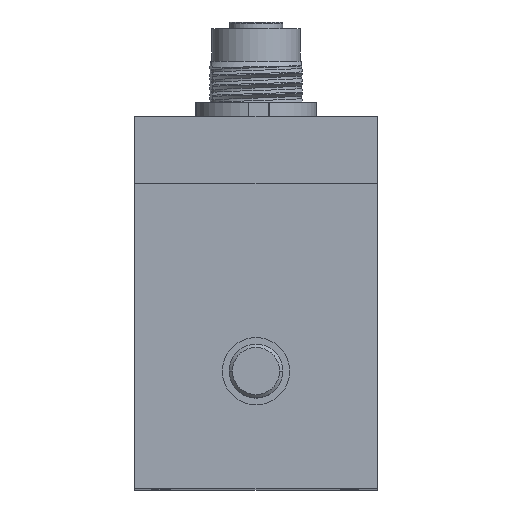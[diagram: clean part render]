
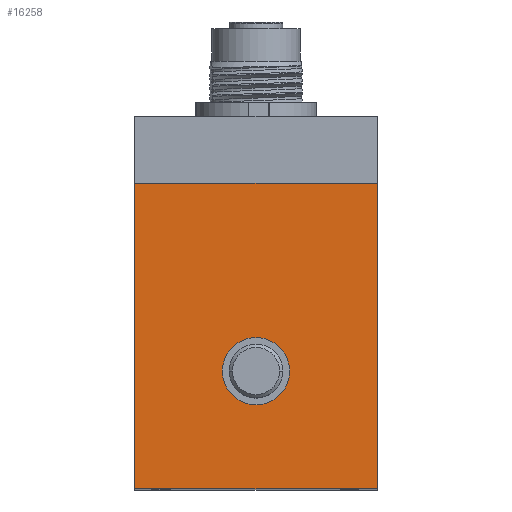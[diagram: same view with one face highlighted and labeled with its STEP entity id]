
A CAD part, top view. The second image highlights one B-rep face of the part: STEP entity #16258.
In plain terms, the highlighted planar face has unit normal (0, 0, 1).
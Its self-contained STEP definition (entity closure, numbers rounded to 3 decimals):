
#138 = AXIS2_PLACEMENT_3D ( 'NONE', #15660, #10300, #12169 ) ;
#1277 = FACE_OUTER_BOUND ( 'NONE', #8064, .T. ) ;
#1362 = CARTESIAN_POINT ( 'NONE',  ( -18., 22.7, 0. ) ) ;
#2106 = EDGE_CURVE ( 'NONE', #13286, #20883, #16691, .T. ) ;
#3254 = ORIENTED_EDGE ( 'NONE', *, *, #3777, .T. ) ;
#3566 = VECTOR ( 'NONE', #8073, 1000. ) ;
#3777 = EDGE_CURVE ( 'NONE', #12118, #6778, #15864, .T. ) ;
#4077 = DIRECTION ( 'NONE',  ( 0., -1., 0. ) ) ;
#4521 = DIRECTION ( 'NONE',  ( 1., 0., 0. ) ) ;
#4768 = DIRECTION ( 'NONE',  ( -1., 0., 0. ) ) ;
#4791 = CARTESIAN_POINT ( 'NONE',  ( 18., -22.7, 0. ) ) ;
#5297 = VECTOR ( 'NONE', #4077, 1000. ) ;
#6778 = VERTEX_POINT ( 'NONE', #12021 ) ;
#6786 = ORIENTED_EDGE ( 'NONE', *, *, #2106, .T. ) ;
#7767 = EDGE_CURVE ( 'NONE', #20883, #12118, #17077, .T. ) ;
#7916 = CARTESIAN_POINT ( 'NONE',  ( -18., -22.7, 0. ) ) ;
#8064 = EDGE_LOOP ( 'NONE', ( #17965, #3254, #18581, #6786 ) ) ;
#8073 = DIRECTION ( 'NONE',  ( 0., 1., 0. ) ) ;
#8187 = PLANE ( 'NONE',  #138 ) ;
#8791 = VECTOR ( 'NONE', #4768, 1000. ) ;
#10300 = DIRECTION ( 'NONE',  ( 0., 0., -1. ) ) ;
#10524 = CARTESIAN_POINT ( 'NONE',  ( 18., -22.7, 0. ) ) ;
#11752 = VECTOR ( 'NONE', #4521, 1000. ) ;
#12021 = CARTESIAN_POINT ( 'NONE',  ( -18., 22.7, 0. ) ) ;
#12118 = VERTEX_POINT ( 'NONE', #12570 ) ;
#12169 = DIRECTION ( 'NONE',  ( -1., 0., 0. ) ) ;
#12570 = CARTESIAN_POINT ( 'NONE',  ( 18., 22.7, 0. ) ) ;
#12977 = CARTESIAN_POINT ( 'NONE',  ( -18., -22.7, 0. ) ) ;
#13286 = VERTEX_POINT ( 'NONE', #17257 ) ;
#15660 = CARTESIAN_POINT ( 'NONE',  ( 0., 0., 0. ) ) ;
#15864 = LINE ( 'NONE', #1362, #8791 ) ;
#16258 = ADVANCED_FACE ( 'NONE', ( #1277 ), #8187, .F. ) ;
#16691 = LINE ( 'NONE', #7916, #11752 ) ;
#17077 = LINE ( 'NONE', #4791, #3566 ) ;
#17257 = CARTESIAN_POINT ( 'NONE',  ( -18., -22.7, 0. ) ) ;
#17965 = ORIENTED_EDGE ( 'NONE', *, *, #7767, .T. ) ;
#18581 = ORIENTED_EDGE ( 'NONE', *, *, #22092, .T. ) ;
#19753 = LINE ( 'NONE', #12977, #5297 ) ;
#20883 = VERTEX_POINT ( 'NONE', #10524 ) ;
#22092 = EDGE_CURVE ( 'NONE', #6778, #13286, #19753, .T. ) ;
